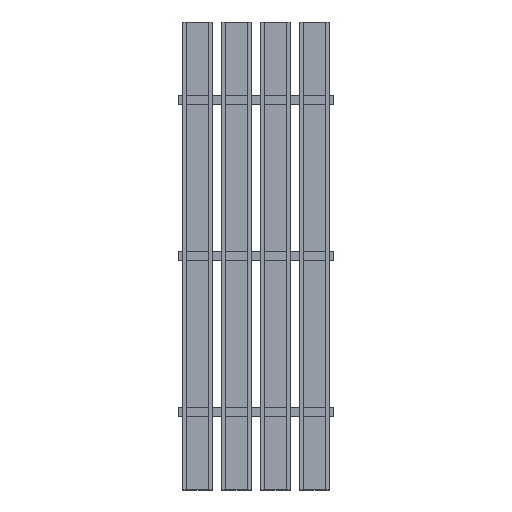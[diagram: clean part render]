
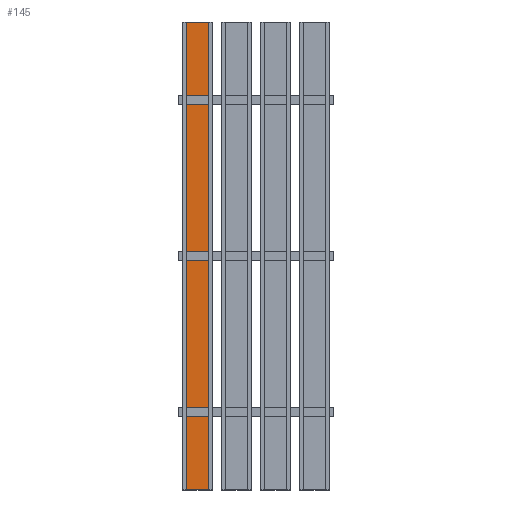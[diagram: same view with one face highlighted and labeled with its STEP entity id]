
A CAD part, top view. The second image highlights one B-rep face of the part: STEP entity #145.
In plain terms, the highlighted planar face has unit normal (0, 0, 1).
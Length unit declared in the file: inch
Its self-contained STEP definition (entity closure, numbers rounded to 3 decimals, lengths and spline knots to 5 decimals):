
#145=ADVANCED_FACE('',(#299),#2615,.T.);
#299=FACE_OUTER_BOUND('',#465,.T.);
#465=EDGE_LOOP('',(#956,#957,#958,#959));
#956=ORIENTED_EDGE('',*,*,#1646,.F.);
#957=ORIENTED_EDGE('',*,*,#1666,.T.);
#958=ORIENTED_EDGE('',*,*,#1652,.F.);
#959=ORIENTED_EDGE('',*,*,#1663,.F.);
#1646=EDGE_CURVE('',#2414,#2415,#2066,.T.);
#1652=EDGE_CURVE('',#2420,#2421,#2072,.T.);
#1663=EDGE_CURVE('',#2415,#2420,#2083,.T.);
#1666=EDGE_CURVE('',#2414,#2421,#2086,.T.);
#2066=B_SPLINE_CURVE_WITH_KNOTS('',1,(#3993,#3994),.UNSPECIFIED.,.F.,.F.,
(2,2),(0.,72.),.UNSPECIFIED.);
#2072=B_SPLINE_CURVE_WITH_KNOTS('',1,(#4005,#4006),.UNSPECIFIED.,.F.,.F.,
(2,2),(0.,72.),.UNSPECIFIED.);
#2083=B_SPLINE_CURVE_WITH_KNOTS('',1,(#4027,#4028),.UNSPECIFIED.,.F.,.F.,
(2,2),(0.,3.5),.UNSPECIFIED.);
#2086=B_SPLINE_CURVE_WITH_KNOTS('',1,(#4033,#4034),.UNSPECIFIED.,.F.,.F.,
(2,2),(0.,3.5),.UNSPECIFIED.);
#2414=VERTEX_POINT('',#3407);
#2415=VERTEX_POINT('',#3408);
#2420=VERTEX_POINT('',#3413);
#2421=VERTEX_POINT('',#3414);
#2615=PLANE('',#2860);
#2860=AXIS2_PLACEMENT_3D('',#3174,#3017,$);
#3017=DIRECTION('',(0.,0.,1.));
#3174=CARTESIAN_POINT('',(-15.89528,43.20472,-0.5));
#3407=CARTESIAN_POINT('',(-19.75,-36.,-0.5));
#3408=CARTESIAN_POINT('',(-19.75,36.,-0.5));
#3413=CARTESIAN_POINT('',(-16.25,36.,-0.5));
#3414=CARTESIAN_POINT('',(-16.25,-36.,-0.5));
#3993=CARTESIAN_POINT('',(-19.75,-36.,-0.5));
#3994=CARTESIAN_POINT('',(-19.75,36.,-0.5));
#4005=CARTESIAN_POINT('',(-16.25,36.,-0.5));
#4006=CARTESIAN_POINT('',(-16.25,-36.,-0.5));
#4027=CARTESIAN_POINT('',(-19.75,36.,-0.5));
#4028=CARTESIAN_POINT('',(-16.25,36.,-0.5));
#4033=CARTESIAN_POINT('',(-19.75,-36.,-0.5));
#4034=CARTESIAN_POINT('',(-16.25,-36.,-0.5));
